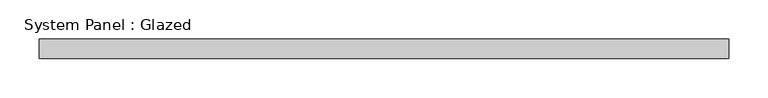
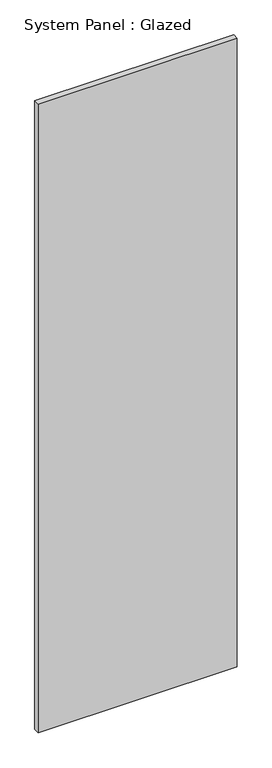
"""IFC4 building model written with IfcOpenShell, lengths in millimetres: plate geometry, System Panel : Glazed."""

from ifc_helpers import new_model, si_unit, origin, origin_with_axes, place, context, project, spatial, polyline, outline, extrude, source, transform, mapped, element, save


def system_panel_glazed_dbd04f36(model_context):
    return source(origin(), model_context, "Body", "SweptSolid", [
        extrude(outline(polyline([(441.75, -49.5), (-441.75, -49.5), (-441.75, -24.5), (441.75, -24.5), (441.75, -49.5)])), origin_with_axes(), (0.0, 0.0, 1.0), 2950.0),
    ])


if __name__ == "__main__":
    model = new_model("IFC4")
    model_context = context("Model", 3, world=origin())
    ifc_project = project(units=[si_unit("LENGTHUNIT", "METRE", prefix="MILLI")], contexts=[model_context])
    site = spatial("IfcSite", under=ifc_project)
    building = spatial("IfcBuilding", under=site)
    placement = place(None, origin())
    system_panel_glazed_shape = system_panel_glazed_dbd04f36(model_context)
    element("IfcPlate", 1, ObjectType="System Panel : Glazed", at=placement, inside=building, context=model_context, shape_type="MappedRepresentation", body=[
        mapped(system_panel_glazed_shape, transform((0.0, 0.0, 0.0), x_axis=(1.0, 0.0, 0.0), y_axis=(0.0, 1.0, 0.0), z_axis=(0.0, 0.0, 1.0))),
    ])
    save(model, "model.ifc")
